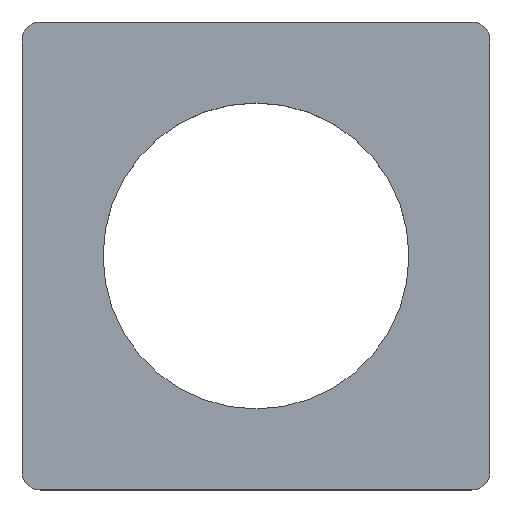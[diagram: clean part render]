
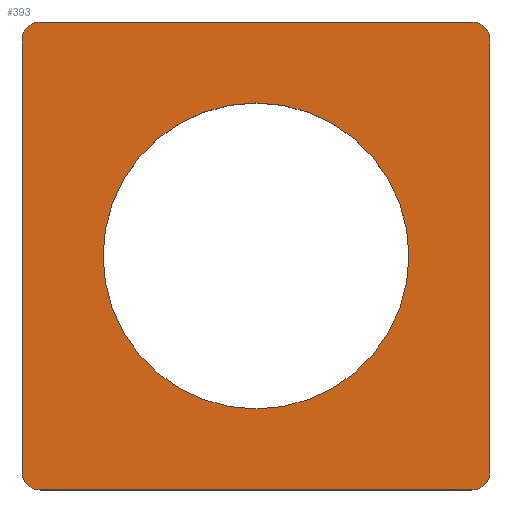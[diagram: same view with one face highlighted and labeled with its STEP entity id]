
A CAD part, top view. The second image highlights one B-rep face of the part: STEP entity #393.
In plain terms, the highlighted planar face has unit normal (0, 0, 1).
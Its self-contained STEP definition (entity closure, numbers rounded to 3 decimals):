
#3 = CIRCLE ( 'NONE', #375, 0.5 ) ;
#9 = VECTOR ( 'NONE', #73, 1000. ) ;
#10 = CIRCLE ( 'NONE', #237, 0.5 ) ;
#14 = EDGE_CURVE ( 'NONE', #157, #58, #218, .T. ) ;
#16 = VECTOR ( 'NONE', #180, 1000. ) ;
#20 = CARTESIAN_POINT ( 'NONE',  ( 12.5, 0.5, 2. ) ) ;
#23 = DIRECTION ( 'NONE',  ( 0., 0., 1. ) ) ;
#30 = CARTESIAN_POINT ( 'NONE',  ( 13., 0.5, 2. ) ) ;
#31 = ORIENTED_EDGE ( 'NONE', *, *, #273, .T. ) ;
#33 = ORIENTED_EDGE ( 'NONE', *, *, #285, .T. ) ;
#34 = CARTESIAN_POINT ( 'NONE',  ( 0., 0.5, 2. ) ) ;
#38 = DIRECTION ( 'NONE',  ( 1., 0., 0. ) ) ;
#49 = CARTESIAN_POINT ( 'NONE',  ( 0.5, 0., 2. ) ) ;
#53 = AXIS2_PLACEMENT_3D ( 'NONE', #158, #223, #103 ) ;
#58 = VERTEX_POINT ( 'NONE', #102 ) ;
#60 = DIRECTION ( 'NONE',  ( 1., 0., 0. ) ) ;
#61 = EDGE_CURVE ( 'NONE', #241, #101, #269, .T. ) ;
#63 = DIRECTION ( 'NONE',  ( -1., 0., 0. ) ) ;
#64 = ORIENTED_EDGE ( 'NONE', *, *, #163, .T. ) ;
#73 = DIRECTION ( 'NONE',  ( 0., -1., 0. ) ) ;
#74 = EDGE_CURVE ( 'NONE', #172, #361, #196, .T. ) ;
#77 = DIRECTION ( 'NONE',  ( 0., 0., 1. ) ) ;
#81 = ORIENTED_EDGE ( 'NONE', *, *, #401, .T. ) ;
#88 = DIRECTION ( 'NONE',  ( 1., 0., 0. ) ) ;
#98 = DIRECTION ( 'NONE',  ( 1., 0., 0. ) ) ;
#101 = VERTEX_POINT ( 'NONE', #359 ) ;
#102 = CARTESIAN_POINT ( 'NONE',  ( 2.25, 6.5, 2. ) ) ;
#103 = DIRECTION ( 'NONE',  ( 1., 0., 0. ) ) ;
#104 = VECTOR ( 'NONE', #63, 1000. ) ;
#108 = CARTESIAN_POINT ( 'NONE',  ( 0., 12.5, 2. ) ) ;
#114 = CARTESIAN_POINT ( 'NONE',  ( 10.75, 6.5, 2. ) ) ;
#119 = ORIENTED_EDGE ( 'NONE', *, *, #364, .T. ) ;
#124 = DIRECTION ( 'NONE',  ( 0., 0., 1. ) ) ;
#136 = DIRECTION ( 'NONE',  ( 1., 0., 0. ) ) ;
#140 = VECTOR ( 'NONE', #60, 1000. ) ;
#143 = ORIENTED_EDGE ( 'NONE', *, *, #151, .F. ) ;
#144 = DIRECTION ( 'NONE',  ( 0., 0., 1. ) ) ;
#148 = VERTEX_POINT ( 'NONE', #326 ) ;
#151 = EDGE_CURVE ( 'NONE', #58, #157, #258, .T. ) ;
#153 = ORIENTED_EDGE ( 'NONE', *, *, #61, .T. ) ;
#156 = LINE ( 'NONE', #30, #16 ) ;
#157 = VERTEX_POINT ( 'NONE', #114 ) ;
#158 = CARTESIAN_POINT ( 'NONE',  ( 6.5, 6.5, 2. ) ) ;
#163 = EDGE_CURVE ( 'NONE', #373, #148, #315, .T. ) ;
#171 = DIRECTION ( 'NONE',  ( 1., 0., 0. ) ) ;
#172 = VERTEX_POINT ( 'NONE', #108 ) ;
#174 = VERTEX_POINT ( 'NONE', #49 ) ;
#180 = DIRECTION ( 'NONE',  ( 0., 1., 0. ) ) ;
#186 = EDGE_LOOP ( 'NONE', ( #143, #299 ) ) ;
#191 = CARTESIAN_POINT ( 'NONE',  ( 0.5, 13., 2. ) ) ;
#193 = DIRECTION ( 'NONE',  ( 0., 0., 1. ) ) ;
#196 = LINE ( 'NONE', #345, #9 ) ;
#202 = ORIENTED_EDGE ( 'NONE', *, *, #383, .T. ) ;
#211 = LINE ( 'NONE', #334, #140 ) ;
#213 = CARTESIAN_POINT ( 'NONE',  ( 0.5, 13., 2. ) ) ;
#218 = CIRCLE ( 'NONE', #53, 4.25 ) ;
#220 = CARTESIAN_POINT ( 'NONE',  ( 12.5, 12.5, 2. ) ) ;
#223 = DIRECTION ( 'NONE',  ( 0., 0., 1. ) ) ;
#228 = CARTESIAN_POINT ( 'NONE',  ( 13., 12.5, 2. ) ) ;
#237 = AXIS2_PLACEMENT_3D ( 'NONE', #242, #340, #98 ) ;
#238 = CARTESIAN_POINT ( 'NONE',  ( 12.5, 0., 2. ) ) ;
#241 = VERTEX_POINT ( 'NONE', #228 ) ;
#242 = CARTESIAN_POINT ( 'NONE',  ( 0.5, 12.5, 2. ) ) ;
#247 = LINE ( 'NONE', #213, #104 ) ;
#252 = AXIS2_PLACEMENT_3D ( 'NONE', #281, #124, #88 ) ;
#258 = CIRCLE ( 'NONE', #320, 4.25 ) ;
#269 = CIRCLE ( 'NONE', #356, 0.5 ) ;
#272 = EDGE_LOOP ( 'NONE', ( #81, #119, #64, #202, #153, #31, #33, #363 ) ) ;
#273 = EDGE_CURVE ( 'NONE', #101, #400, #247, .T. ) ;
#276 = FACE_BOUND ( 'NONE', #186, .T. ) ;
#279 = PLANE ( 'NONE',  #252 ) ;
#281 = CARTESIAN_POINT ( 'NONE',  ( 0.5, 0.5, 2. ) ) ;
#283 = DIRECTION ( 'NONE',  ( 1., 0., 0. ) ) ;
#285 = EDGE_CURVE ( 'NONE', #400, #172, #10, .T. ) ;
#288 = CARTESIAN_POINT ( 'NONE',  ( 0.5, 0.5, 2. ) ) ;
#299 = ORIENTED_EDGE ( 'NONE', *, *, #14, .F. ) ;
#308 = FACE_OUTER_BOUND ( 'NONE', #272, .T. ) ;
#315 = CIRCLE ( 'NONE', #344, 0.5 ) ;
#320 = AXIS2_PLACEMENT_3D ( 'NONE', #328, #23, #136 ) ;
#326 = CARTESIAN_POINT ( 'NONE',  ( 13., 0.5, 2. ) ) ;
#328 = CARTESIAN_POINT ( 'NONE',  ( 6.5, 6.5, 2. ) ) ;
#334 = CARTESIAN_POINT ( 'NONE',  ( 0.5, 0., 2. ) ) ;
#340 = DIRECTION ( 'NONE',  ( 0., 0., 1. ) ) ;
#344 = AXIS2_PLACEMENT_3D ( 'NONE', #20, #144, #171 ) ;
#345 = CARTESIAN_POINT ( 'NONE',  ( 0., 0.5, 2. ) ) ;
#356 = AXIS2_PLACEMENT_3D ( 'NONE', #220, #77, #38 ) ;
#359 = CARTESIAN_POINT ( 'NONE',  ( 12.5, 13., 2. ) ) ;
#361 = VERTEX_POINT ( 'NONE', #34 ) ;
#363 = ORIENTED_EDGE ( 'NONE', *, *, #74, .T. ) ;
#364 = EDGE_CURVE ( 'NONE', #174, #373, #211, .T. ) ;
#373 = VERTEX_POINT ( 'NONE', #238 ) ;
#375 = AXIS2_PLACEMENT_3D ( 'NONE', #288, #193, #283 ) ;
#383 = EDGE_CURVE ( 'NONE', #148, #241, #156, .T. ) ;
#393 = ADVANCED_FACE ( 'NONE', ( #308, #276 ), #279, .T. ) ;
#400 = VERTEX_POINT ( 'NONE', #191 ) ;
#401 = EDGE_CURVE ( 'NONE', #361, #174, #3, .T. ) ;
